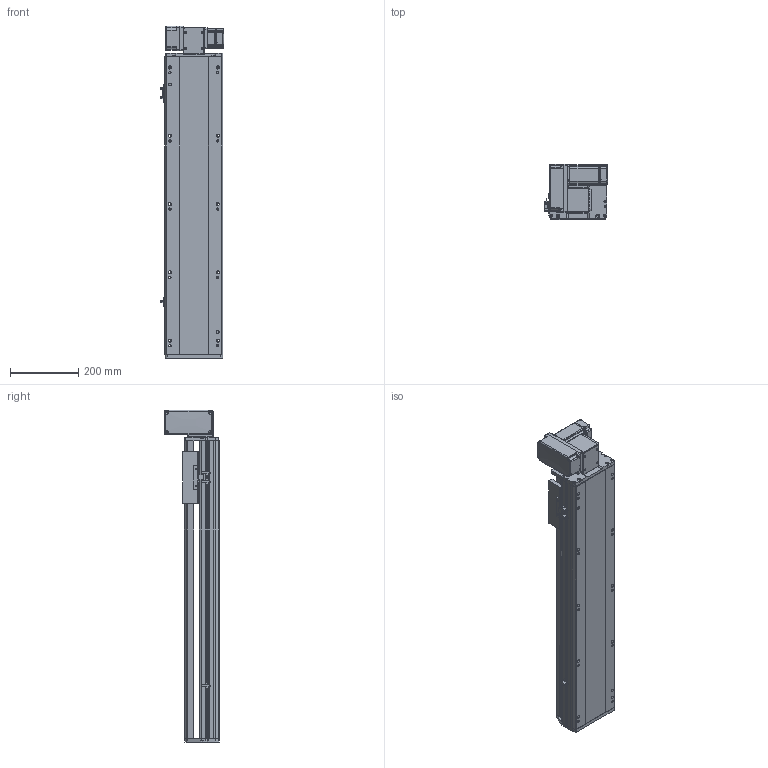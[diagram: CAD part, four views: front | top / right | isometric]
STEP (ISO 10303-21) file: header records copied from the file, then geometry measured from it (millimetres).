
FILE_DESCRIPTION (( 'STEP AP214' ), '1' );
FILE_NAME ('RTB17S-XX-600-LW-M40-C4.STEP', '2025-12-11T06:59:05', ( '' ), ( '' ), 'SwSTEP 2.0', 'SolidWorks 2018', '' );
FILE_SCHEMA (( 'AUTOMOTIVE_DESIGN' ));
Length unit declared in the file: millimetre
Products named in the file (14): RTB14-L-008-M20--萇儂啣^RTB17S-LW-々湍釱蚾饜-400W_RTB17S-XX-XX-LW-M40-C4; RTH13-BL-012覜茼え俋离^RTB17S-XX-XX-LW-M40-C4; RTB17S-XX-600-LW-M40-C4; RTB14-L-018P^RTB17S-LW-々湍釱蚾饜-400W_RTB17S-XX-XX-LW-M40-C4; RTB17S-LW-々湍釱蚾饜-400W^RTB17S-XX-XX-LW-M40-C4; RTB17S-L-014-T20--々湍釱^RTB17S-LW-々湍釱蚾饜-400W_RTB17S-XX-XX-LW-M40-C4; RTB17S-L-004佪裝蹟譫蟀諉釱^RTB17S-XX-XX-LW-M40-C4; OMRON EE-SX672 传感器^RTB17S-XX-XX-LW-M40-C4; RTB17-R-011菁釱^RTB17S-XX-XX-LW-M40-C4; RTB14-L-005P--轴承塑胶压盖^RTB17S-LW-皮带座装配-400W_RTB17S-XX-XX-LW-M40-C4; RTB17S-L-001耜醱啣^RTB17S-XX-XX-LW-M40-C4; RTB14-L-017P^RTB17S-LW-々湍釱蚾饜-400W_RTB17S-XX-XX-LW-M40-C4; 400W侜督萇儂^RTB17S-XX-XX-LW-M40-C4; RTB17S-L-007奻裔^RTB17S-XX-XX-LW-M40-C4
Assembly tree (16 placements, depth 3):
  RTB17S-XX-600-LW-M40-C4
    RTB17-R-011菁釱^RTB17S-XX-XX-LW-M40-C4
    RTB17S-L-007奻裔^RTB17S-XX-XX-LW-M40-C4
    OMRON EE-SX672 传感器^RTB17S-XX-XX-LW-M40-C4  x3
    RTB17S-L-001耜醱啣^RTB17S-XX-XX-LW-M40-C4
    400W侜督萇儂^RTB17S-XX-XX-LW-M40-C4
    RTB17S-L-004佪裝蹟譫蟀諉釱^RTB17S-XX-XX-LW-M40-C4
    RTH13-BL-012覜茼え俋离^RTB17S-XX-XX-LW-M40-C4
    RTB17S-LW-々湍釱蚾饜-400W^RTB17S-XX-XX-LW-M40-C4
      RTB17S-L-014-T20--々湍釱^RTB17S-LW-々湍釱蚾饜-400W_RTB17S-XX-XX-LW-M40-C4
      RTB14-L-005P--轴承塑胶压盖^RTB17S-LW-皮带座装配-400W_RTB17S-XX-XX-LW-M40-C4
      RTB14-L-008-M20--萇儂啣^RTB17S-LW-々湍釱蚾饜-400W_RTB17S-XX-XX-LW-M40-C4
      RTB14-L-017P^RTB17S-LW-々湍釱蚾饜-400W_RTB17S-XX-XX-LW-M40-C4  x2
      RTB14-L-018P^RTB17S-LW-々湍釱蚾饜-400W_RTB17S-XX-XX-LW-M40-C4
Bounding box: 186 x 160.5 x 972.5 mm (x, y, z)
Volume: 9115026 mm3; surface area: 1141449 mm2
Topology: 15 solids, 15 shells, 2173 faces, 5979 edges, 3897 vertices
Faces by surface type: plane 1064, cylinder 661, bspline 301, cone 139, torus 8
Entity records: 61097 total; most frequent: CARTESIAN_POINT 16984, ORIENTED_EDGE 8802, DIRECTION 8216, EDGE_CURVE 4401, VERTEX_POINT 2885, AXIS2_PLACEMENT_3D 2815, VECTOR 2586, LINE 2586
